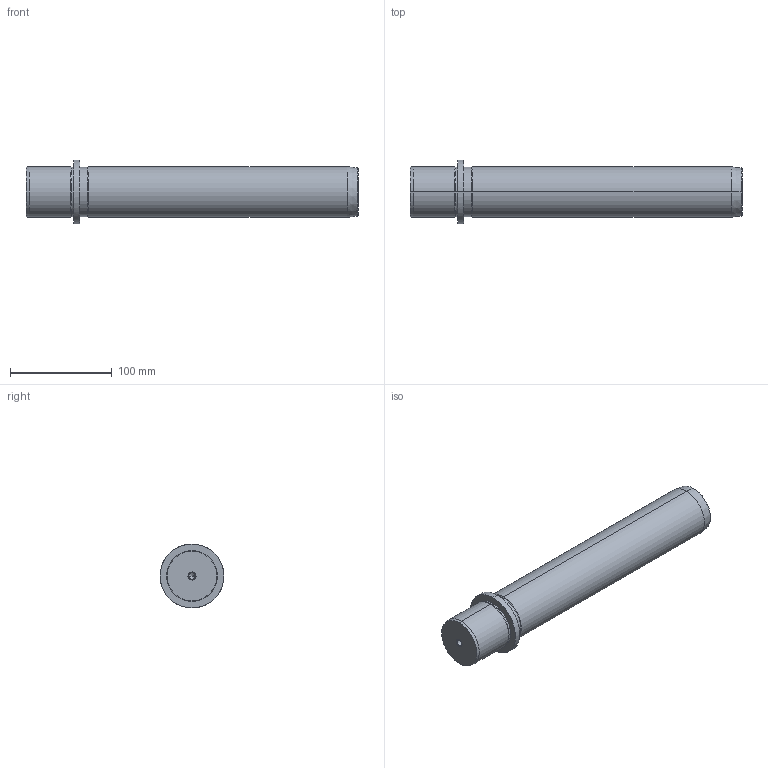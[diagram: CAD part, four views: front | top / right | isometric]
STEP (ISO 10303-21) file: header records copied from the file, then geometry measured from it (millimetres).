
FILE_DESCRIPTION(('CATIA V5 STEP Exchange'),'2;1');
FILE_NAME('C:\Users\Utente\Desktop\IO LAVORO\3D X SITO CF\X SITO\718\718-50x280.stp','2021-01-02T12:19:22+00:00',('none'),('none'),'CATIA Version 5 Release 20 GA (IN-10)','CATIA V5 STEP AP203','none');
FILE_SCHEMA(('CONFIG_CONTROL_DESIGN'));
Length unit declared in the file: millimetre
Products named in the file (1): 718-50x280
Bounding box: 327 x 63 x 63 mm (x, y, z)
Volume: 645120 mm3; surface area: 58648.5 mm2
Topology: 1 solids, 1 shells, 36 faces, 100 edges, 66 vertices
Faces by surface type: cone 16, cylinder 14, plane 4, torus 2
Entity records: 1291 total; most frequent: CARTESIAN_POINT 362, ORIENTED_EDGE 192, DIRECTION 157, EDGE_CURVE 96, AXIS2_PLACEMENT_3D 92, VERTEX_POINT 66, CIRCLE 55, EDGE_LOOP 40
